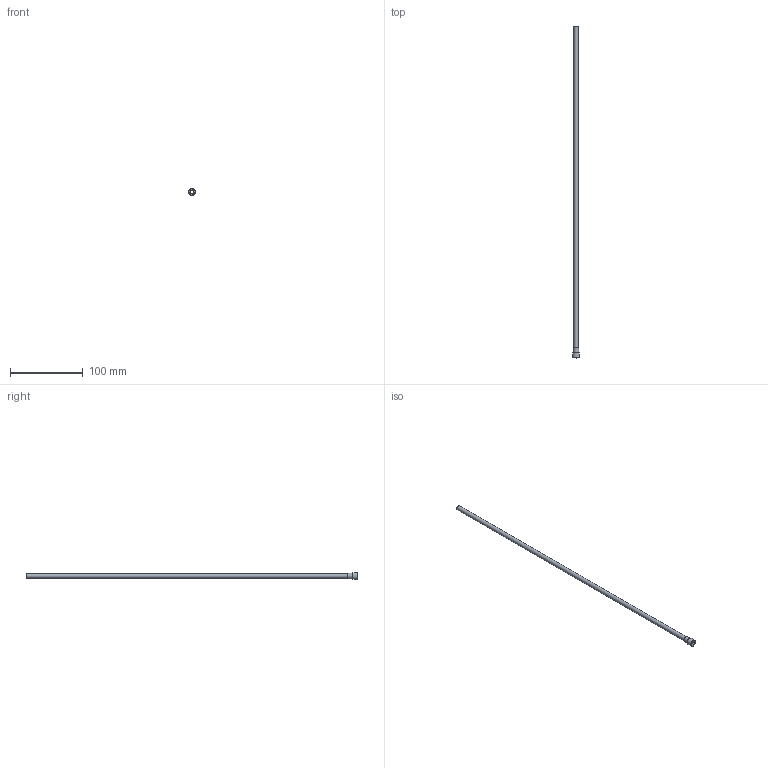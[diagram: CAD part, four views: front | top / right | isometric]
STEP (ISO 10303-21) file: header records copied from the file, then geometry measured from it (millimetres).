
FILE_DESCRIPTION(/* description */ (''),/* implementation_level */ '2;1');
FILE_NAME(/* name */ 'C:/Users/drich/Desktop/R250T-18 v1.step',/* time_stamp */ '2019-12-30T13:16:01-06:00',/* author */ (''),/* organization */ (''),/* preprocessor_version */ 'ST-DEVELOPER v18',/* originating_system */ 'Autodesk Translation Framework v8.12.0.6',/* authorisation */ '');
FILE_SCHEMA (('AUTOMOTIVE_DESIGN { 1 0 10303 214 3 1 1 }'));
Length unit declared in the file: inch
Products named in the file (1): R250T-18
Bounding box: 9.4 x 457.2 x 9.4 mm (x, y, z)
Volume: 2578.1 mm3; surface area: 17698 mm2
Topology: 1 solids, 1 shells, 19 faces, 47 edges, 33 vertices
Faces by surface type: plane 11, cylinder 4, torus 3, cone 1
Full cylindrical faces by diameter (mm): 5.842 x1, 6.35 x1, 7.818 x1, 9.398 x1
Entity records: 624 total; most frequent: DIRECTION 111, CARTESIAN_POINT 100, ORIENTED_EDGE 94, EDGE_CURVE 47, AXIS2_PLACEMENT_3D 44, VERTEX_POINT 33, EDGE_LOOP 24, CIRCLE 24
